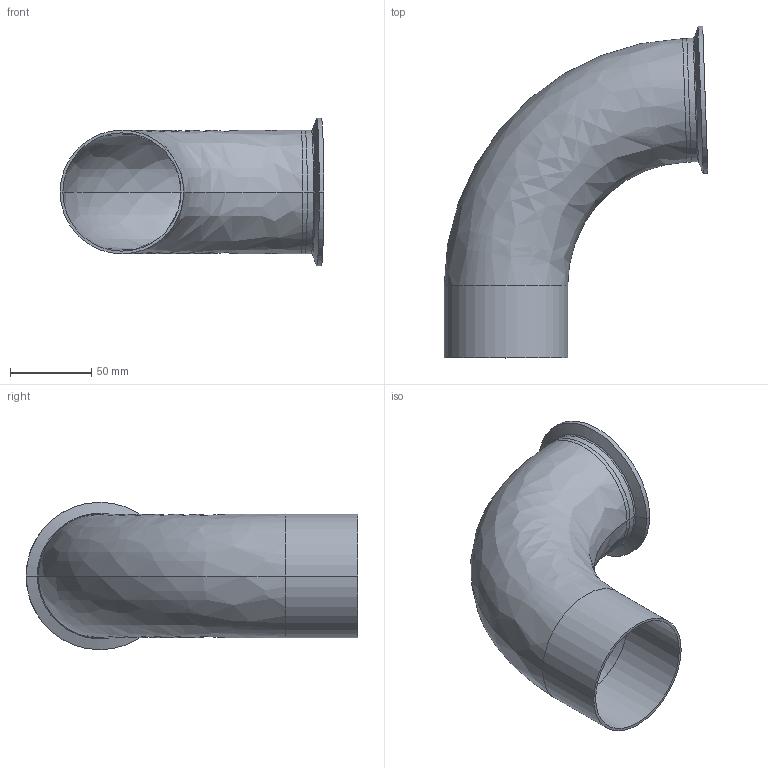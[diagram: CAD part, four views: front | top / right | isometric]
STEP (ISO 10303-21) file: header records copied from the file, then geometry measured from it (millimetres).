
FILE_DESCRIPTION (( 'STEP AP214' ), '1' );
FILE_NAME ('TE2C886L3.0-...STEP', '2016-05-22T08:13:30', ( 'eran' ), ( '' ), 'SwSTEP 2.0', 'SolidWorks 2016', '' );
FILE_SCHEMA (( 'AUTOMOTIVE_DESIGN' ));
Length unit declared in the file: millimetre
Products named in the file (1): TE2C886L3.0-..
Bounding box: 162.63 x 204.69 x 90.91 mm (x, y, z)
Volume: 97622.6 mm3; surface area: 114123 mm2
Topology: 2 solids, 2 shells, 39 faces, 92 edges, 58 vertices
Faces by surface type: bspline 14, cylinder 14, cone 6, plane 5
Entity records: 1817 total; most frequent: CARTESIAN_POINT 874, DIRECTION 204, ORIENTED_EDGE 184, AXIS2_PLACEMENT_3D 92, EDGE_CURVE 92, CIRCLE 66, VERTEX_POINT 58, EDGE_LOOP 44
